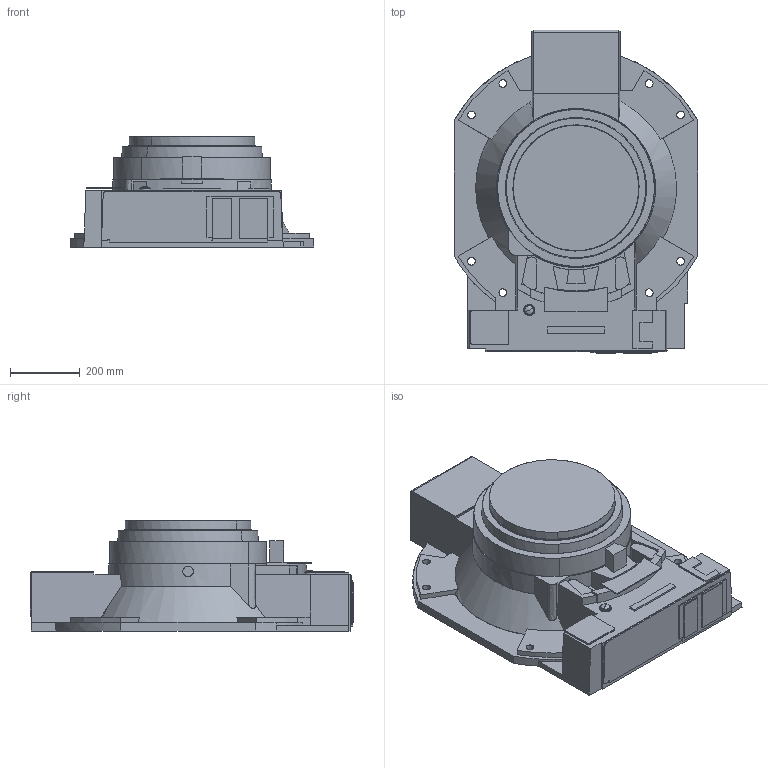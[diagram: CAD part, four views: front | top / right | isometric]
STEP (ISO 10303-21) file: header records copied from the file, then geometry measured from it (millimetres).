
FILE_DESCRIPTION(('CATIA V5 STEP Exchange'),'2;1');
FILE_NAME('Z:\ROBOT\CATIA06\products\SRA\SRA240L-01\Assy\FTP\catia\SRA240L-01_BASE.stp','2023-04-03T10:18:36+00:00',('none'),('none'),'CATIA Version 5-6 Release 2016 SP3','CATIA V5 STEP AP203','none');
FILE_SCHEMA(('CONFIG_CONTROL_DESIGN'));
Length unit declared in the file: millimetre
Products named in the file (1): SRA240L-01_BASE
Bounding box: 700 x 928.5 x 316 mm (x, y, z)
Surface area: 2704831.5 mm2 (no closed solid volume)
Topology: 0 solids, 254 shells, 254 faces, 1316 edges, 1314 vertices
Faces by surface type: plane 166, bspline 88
Entity records: 15770 total; most frequent: CARTESIAN_POINT 8398, ORIENTED_EDGE 1314, B_SPLINE_CURVE_WITH_KNOTS 1314, EDGE_CURVE 1314, VERTEX_POINT 1314, DIRECTION 332, EDGE_LOOP 278, OPEN_SHELL 254
